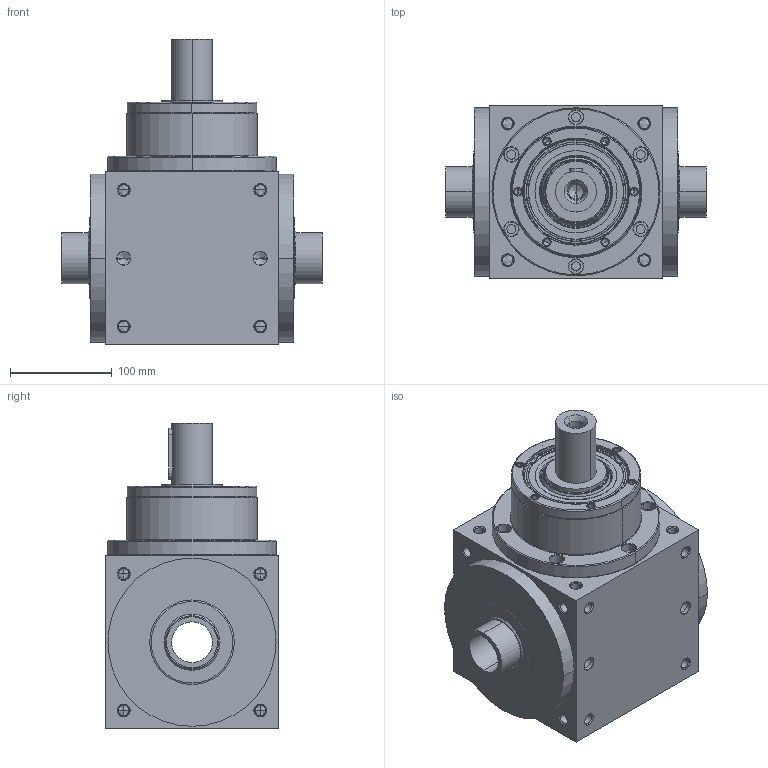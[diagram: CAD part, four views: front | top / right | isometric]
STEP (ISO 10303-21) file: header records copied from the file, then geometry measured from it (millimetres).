
FILE_DESCRIPTION((''),'2;1');
FILE_NAME('AT170C-1_ASM','2009-02-04T',('d00080'),(''),'PRO/ENGINEER BY PARAMETRIC TECHNOLOGY CORPORATION, 2006170','PRO/ENGINEER BY PARAMETRIC TECHNOLOGY CORPORATION, 2006170','');
FILE_SCHEMA(('CONFIG_CONTROL_DESIGN'));
Length unit declared in the file: millimetre
Products named in the file (6): AT170C-1; P1801700001; 22400071007; P1208700001; P0904701001; AT170C-1_ASM
Assembly tree (5 placements, depth 2):
  AT170C-1_ASM
    AT170C-1
    P1801700001
    22400071007
    P1208700001
    P0904701001
Bounding box: 256 x 170 x 300 mm (x, y, z)
Volume: 5963919.3 mm3; surface area: 420672.7 mm2
Topology: 6 solids, 38 shells, 611 faces, 1495 edges, 888 vertices
Faces by surface type: cylinder 270, cone 222, plane 79, torus 40
Entity records: 18520 total; most frequent: CARTESIAN_POINT 4033, DIRECTION 3267, ORIENTED_EDGE 2728, EDGE_CURVE 1427, AXIS2_PLACEMENT_3D 1378, VERTEX_POINT 888, CIRCLE 748, EDGE_LOOP 728
